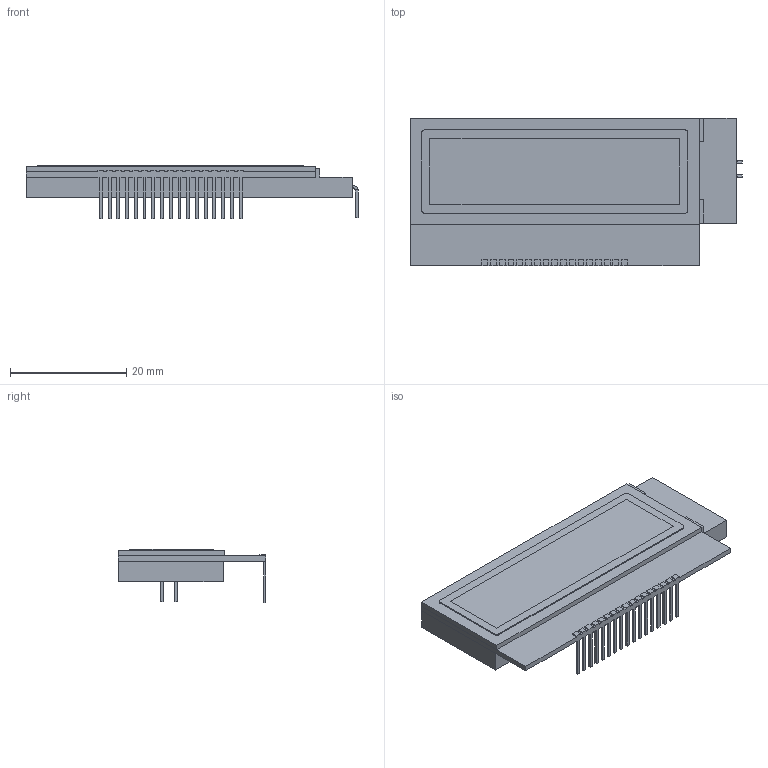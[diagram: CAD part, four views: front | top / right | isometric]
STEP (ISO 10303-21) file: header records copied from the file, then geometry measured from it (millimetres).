
FILE_DESCRIPTION (( 'STEP AP214' ), '1' );
FILE_NAME ('NHD-C0216CU-FSW-GBW-3V3.STEP', '2017-11-28T14:52:01', ( '' ), ( '' ), 'SwSTEP 2.0', 'SolidWorks 2017', '' );
FILE_SCHEMA (( 'AUTOMOTIVE_DESIGN' ));
Length unit declared in the file: millimetre
Products named in the file (1): NHD-C0216CU-FSW-GBW-3V3
Bounding box: 57 x 25.3 x 9.1 mm (x, y, z)
Volume: 5740.2 mm3; surface area: 9709.9 mm2
Topology: 5 solids, 5 shells, 272 faces, 764 edges, 504 vertices
Faces by surface type: plane 264, cylinder 8
Entity records: 11264 total; most frequent: CARTESIAN_POINT 1541, ORIENTED_EDGE 1528, DIRECTION 1326, EDGE_CURVE 764, LINE 748, VECTOR 748, VERTEX_POINT 504, AXIS2_PLACEMENT_3D 289
